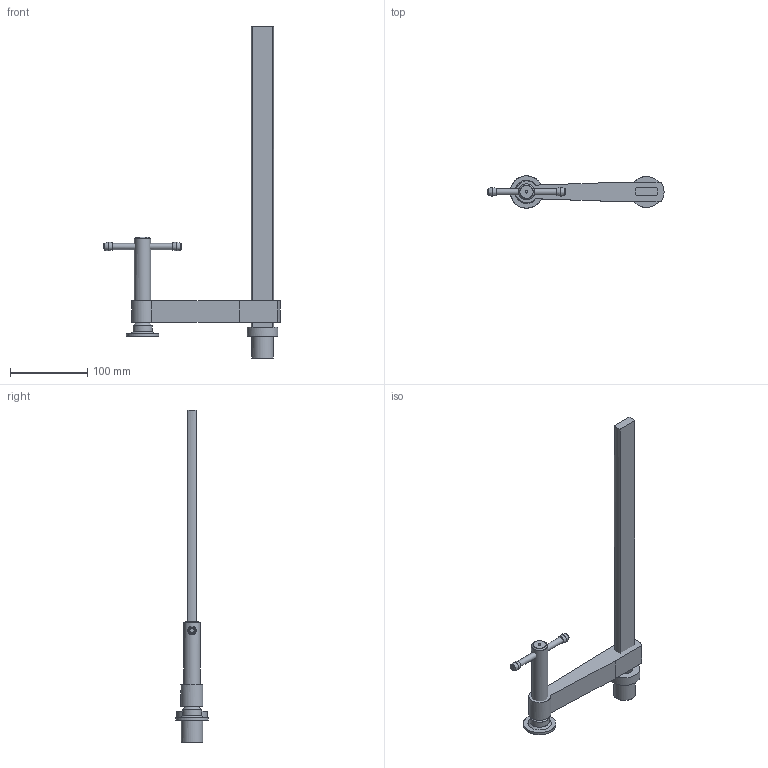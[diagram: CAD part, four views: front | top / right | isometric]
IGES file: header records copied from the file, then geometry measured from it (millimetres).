
Start section: ZWSOFT
Global section: file name: TW28-30-14K.igs; native system: ZW3D; preprocessor: 1.0; author: ZW3D; organization: ZWSOFT; date: 140317.132004; units: millimetre
Bounding box: 227.6 x 41.72 x 429 mm (x, y, z)
Surface area: 74081 mm2 (no closed solid volume)
Topology: 0 solids, 0 shells, 42 faces, 209 edges, 174 vertices
Faces by surface type: bspline 42
